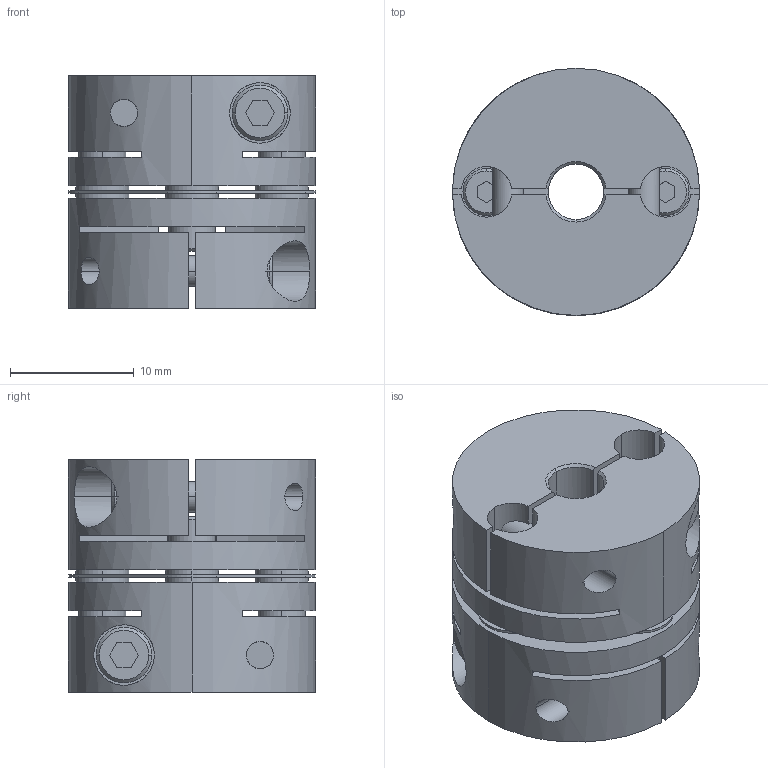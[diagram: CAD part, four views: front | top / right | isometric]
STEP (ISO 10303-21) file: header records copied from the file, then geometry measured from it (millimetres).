
FILE_DESCRIPTION((''),'2;1');
FILE_NAME('LAS-20C-4.5×6.stp','2016-04-21T12:05:16',(''),(''),'AutoCAD STEP 2000i','AutoCAD 2000i',', , ');
FILE_SCHEMA(('CONFIG_CONTROL_DESIGN'));
Length unit declared in the file: millimetre
Products named in the file (5): LAS-20C-4×4; 忣兜1; LA-2002-D04-1; LA-2002-D04; LAS20-ITA
Assembly tree (4 placements, depth 2):
  LAS-20C-4×4
    忣兜1
    LA-2002-D04-1
    LA-2002-D04
    LAS20-ITA
Bounding box: 20 x 20 x 18.8 mm (x, y, z)
Volume: 4612.3 mm3; surface area: 4556.7 mm2
Topology: 1 solids, 1 shells, 236 faces, 624 edges, 408 vertices
Faces by surface type: plane 112, cylinder 96, cone 28
Entity records: 8203 total; most frequent: CARTESIAN_POINT 2009, DIRECTION 1302, ORIENTED_EDGE 1248, EDGE_CURVE 624, AXIS2_PLACEMENT_3D 477, VERTEX_POINT 408, VECTOR 348, LINE 348
